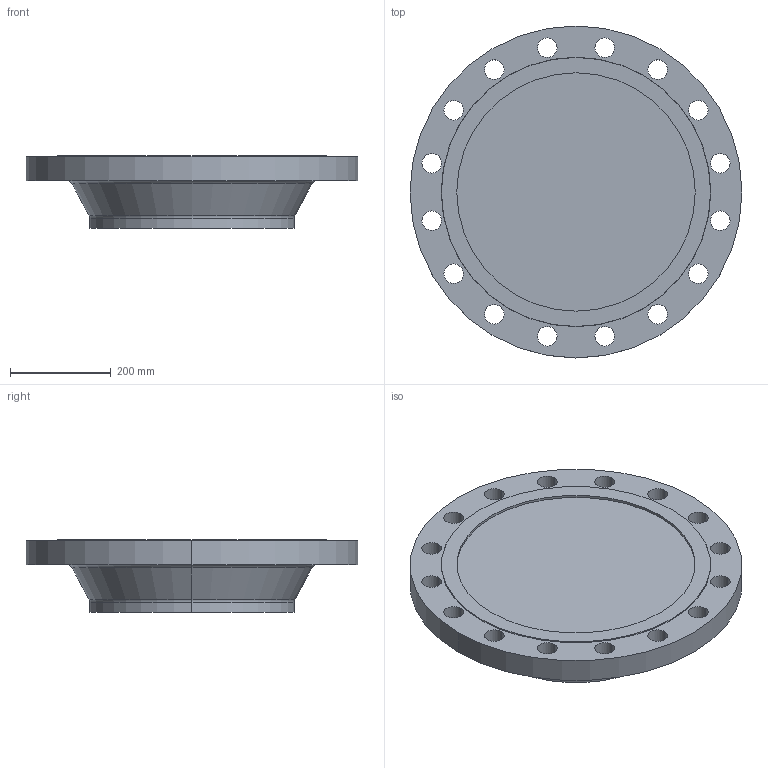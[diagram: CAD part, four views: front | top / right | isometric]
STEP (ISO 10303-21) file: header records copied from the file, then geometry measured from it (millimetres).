
FILE_DESCRIPTION (( 'STEP AP214' ), '1' );
FILE_NAME ('PN40 DN400 Type 21(ii) - Type F Face.STEP', '2019-01-05T23:10:22', ( '' ), ( '' ), 'SwSTEP 2.0', 'SolidWorks 2019', '' );
FILE_SCHEMA (( 'AUTOMOTIVE_DESIGN' ));
Length unit declared in the file: millimetre
Products named in the file (1): PN40 DN400 Type 21(ii) - Type F Face
Bounding box: 660 x 660 x 145 mm (x, y, z)
Volume: 29296359.7 mm3; surface area: 937215.5 mm2
Topology: 1 solids, 1 shells, 51 faces, 132 edges, 86 vertices
Faces by surface type: cylinder 38, plane 5, torus 4, cone 4
Entity records: 1706 total; most frequent: DIRECTION 326, CARTESIAN_POINT 270, ORIENTED_EDGE 264, AXIS2_PLACEMENT_3D 142, EDGE_CURVE 132, CIRCLE 90, VERTEX_POINT 86, EDGE_LOOP 86
